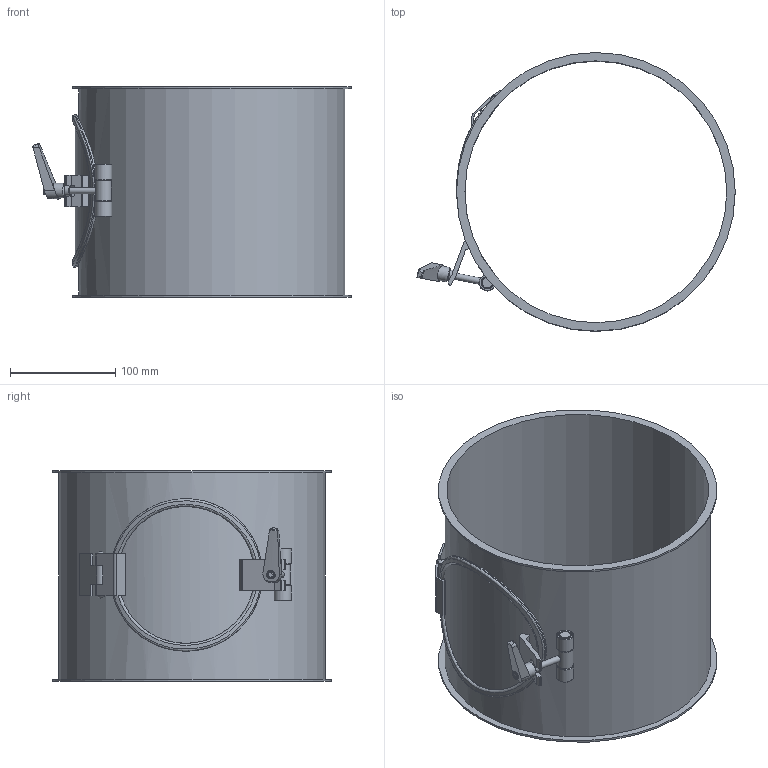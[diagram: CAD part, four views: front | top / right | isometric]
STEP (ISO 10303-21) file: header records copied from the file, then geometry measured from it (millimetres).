
FILE_DESCRIPTION((''),'2;1');
FILE_NAME('U:\Wolfgang\Marcel-3D\fertig\Kapitel 4\2521043.stp','2011-04-21T08:47:11',('TK1'),(''),'Autodesk Inventor 2010','Autodesk Inventor 2010','');
FILE_SCHEMA(('AUTOMOTIVE_DESIGN { 1 0 10303 214 1 1 1 1 }'));
Length unit declared in the file: millimetre
Products named in the file (13): 2521043 (Detailgenauigkeit1); 2521043-1; GelenkDeckel25b; GelenkDeckel1c; Deckel252; Deckel25b; GelenkDeckel22a 45; dichtung25; Halterung Deckel25; VerschlussB4; Verschluss1; Verschluss2; Verstellbarer Klemmhebel GN 101-14-M6-SW
Assembly tree (13 placements, depth 3):
  2521043 (Detailgenauigkeit1)
    2521043-1
    GelenkDeckel25b
    GelenkDeckel1c
    Deckel252
      Deckel25b
      GelenkDeckel22a 45
      dichtung25
      Halterung Deckel25
    VerschlussB4
      Verschluss1  x2
      Verschluss2
    Verstellbarer Klemmhebel GN 101-14-M6-SW
Bounding box: 302.76 x 265 x 200 mm (x, y, z)
Volume: 372892.3 mm3; surface area: 377698.1 mm2
Topology: 11 solids, 11 shells, 143 faces, 328 edges, 215 vertices
Faces by surface type: plane 67, cylinder 47, cone 18, torus 5, bspline 4, sphere 2
Full cylindrical faces by diameter (mm): 4.8 x1, 6 x5, 8 x1, 10 x3, 11 x2, 14 x1, 15 x1, 16 x2, 115 x1, 130 x1, 135 x1, 145 x1, 249 x1, 253 x1, 265 x2
Entity records: 5785 total; most frequent: CARTESIAN_POINT 2517, DIRECTION 632, ORIENTED_EDGE 532, EDGE_CURVE 266, AXIS2_PLACEMENT_3D 247, VERTEX_POINT 195, EDGE_LOOP 193, VECTOR 138
